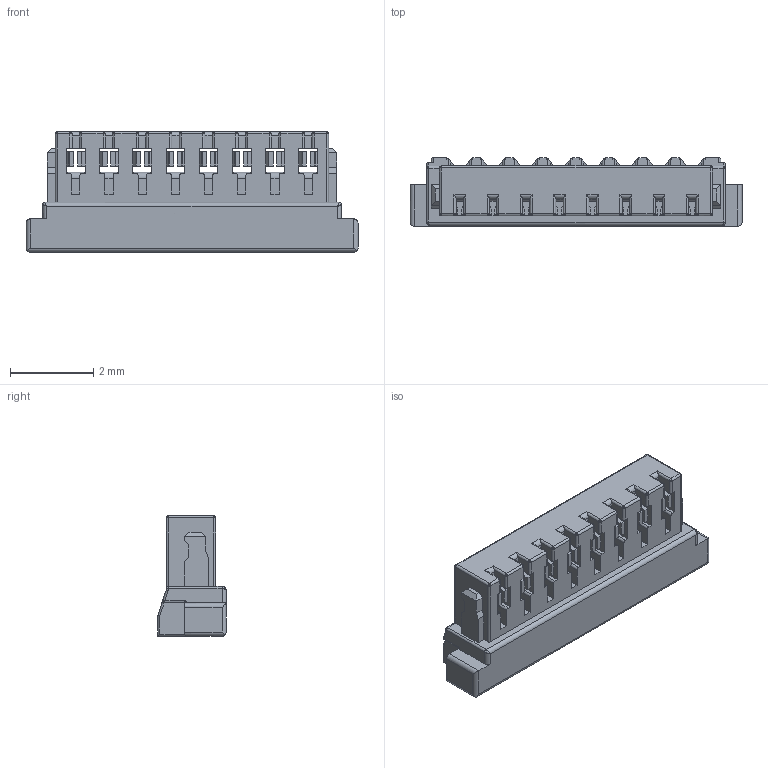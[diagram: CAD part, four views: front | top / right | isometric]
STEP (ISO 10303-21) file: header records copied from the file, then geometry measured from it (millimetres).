
FILE_DESCRIPTION((''),'2;1');
FILE_NAME('SCT0800HI-08','2023-03-21T23:20:08',('Administrator'),(''),'CREO PARAMETRIC BY PTC INC, 2018050','CREO PARAMETRIC BY PTC INC, 2018050','');
FILE_SCHEMA(('CONFIG_CONTROL_DESIGN'));
Length unit declared in the file: millimetre
Products named in the file (1): SCT0800HI-08
Bounding box: 8 x 1.65 x 2.9 mm (x, y, z)
Volume: 18.9 mm3; surface area: 139.4 mm2
Topology: 1 solids, 1 shells, 1450 faces, 4214 edges, 2653 vertices
Faces by surface type: plane 968, cylinder 430, sphere 48, bspline 3, torus 1
Entity records: 47432 total; most frequent: CARTESIAN_POINT 8859, ORIENTED_EDGE 8362, DIRECTION 7816, EDGE_CURVE 4181, VECTOR 3258, LINE 3258, VERTEX_POINT 2653, AXIS2_PLACEMENT_3D 2279
